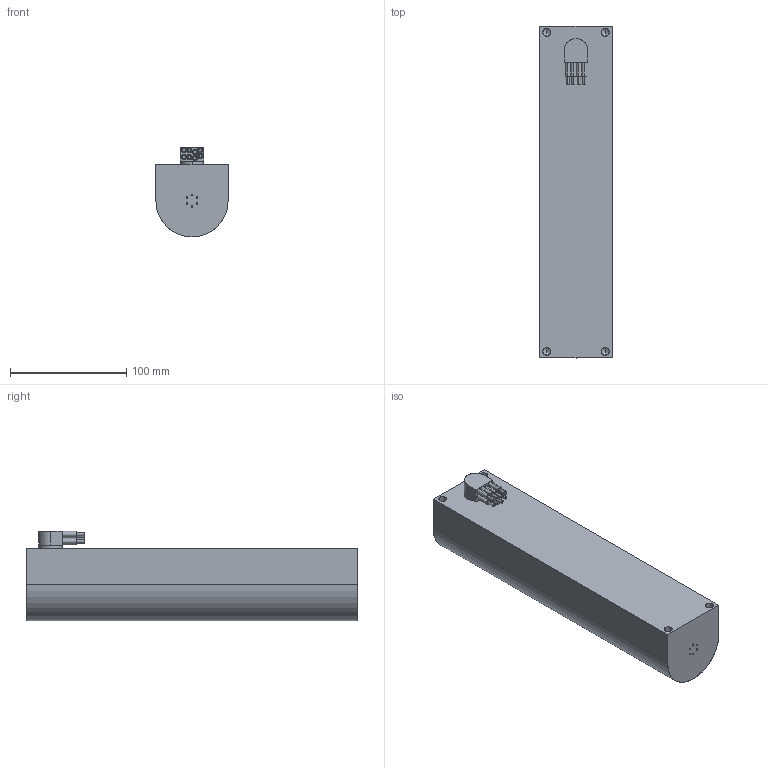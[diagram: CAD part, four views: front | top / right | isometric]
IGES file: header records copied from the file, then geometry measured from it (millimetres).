
Start section: SolidWorks IGES file using analytic representation for surfaces
Global section: file name: S:\PROD\2\2160\Design\Drawings\TC2160_Dummy.IGS; native system: SolidWorks 2006 by SolidWorks Corporation; preprocessor: SolidWorks 2006 by SolidWorks Corporation; author: nsj; date: 060317.120941; units: millimetre
Bounding box: 62 x 285 x 77 mm (x, y, z)
Surface area: 131438.3 mm2 (no closed solid volume)
Topology: 0 solids, 0 shells, 309 faces, 6126 edges, 6118 vertices
Faces by surface type: revolution 193, bspline 116
